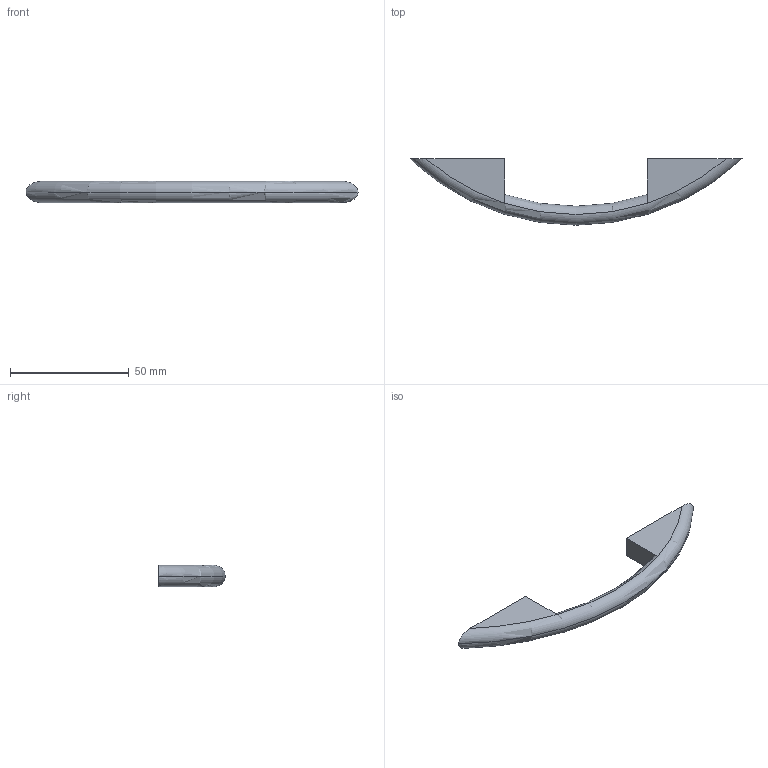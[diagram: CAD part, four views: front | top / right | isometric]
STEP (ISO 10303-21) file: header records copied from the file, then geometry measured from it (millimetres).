
FILE_DESCRIPTION( ( '' ), '1' );
FILE_NAME( 'D:/1.AUTOCAD EXPORT/Group 10/sheet_10_1/9071096.stp', '2013-10-21T07:08:05', ( '' ), ( '' ), ' ', ' ', ' ' );
FILE_SCHEMA( ( 'automotive_design' ) );
Length unit declared in the file: millimetre
Products named in the file (1): 1
Bounding box: 140 x 28 x 9 mm (x, y, z)
Volume: 12175 mm3; surface area: 5556.7 mm2
Topology: 1 solids, 1 shells, 20 faces, 44 edges, 28 vertices
Faces by surface type: plane 12, torus 4, cylinder 4
Entity records: 1292 total; most frequent: CARTESIAN_POINT 301, DIRECTION 98, STYLED_ITEM 93, PRESENTATION_STYLE_ASSIGNMENT 93, COLOUR_RGB 93, ORIENTED_EDGE 88, EDGE_CURVE 44, CURVE_STYLE 44
